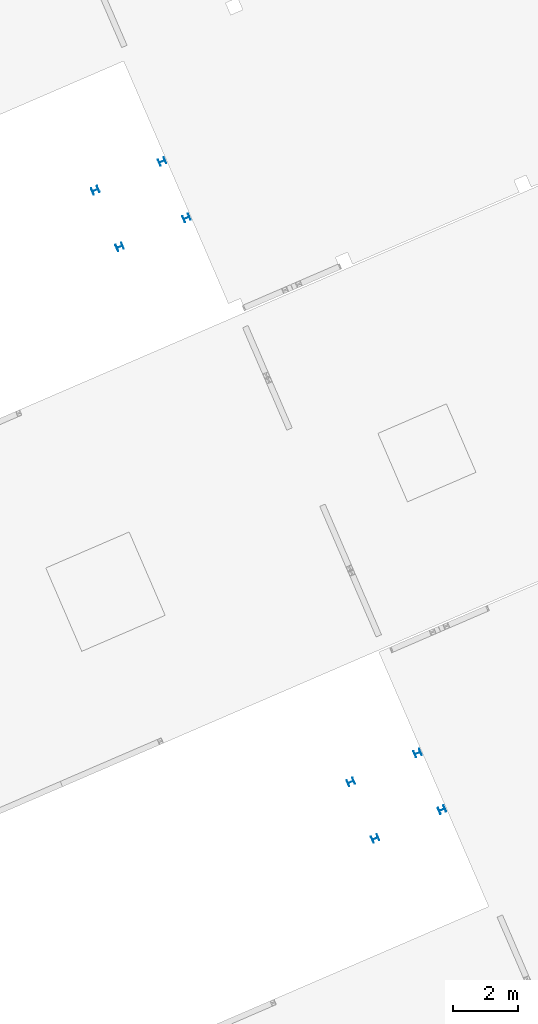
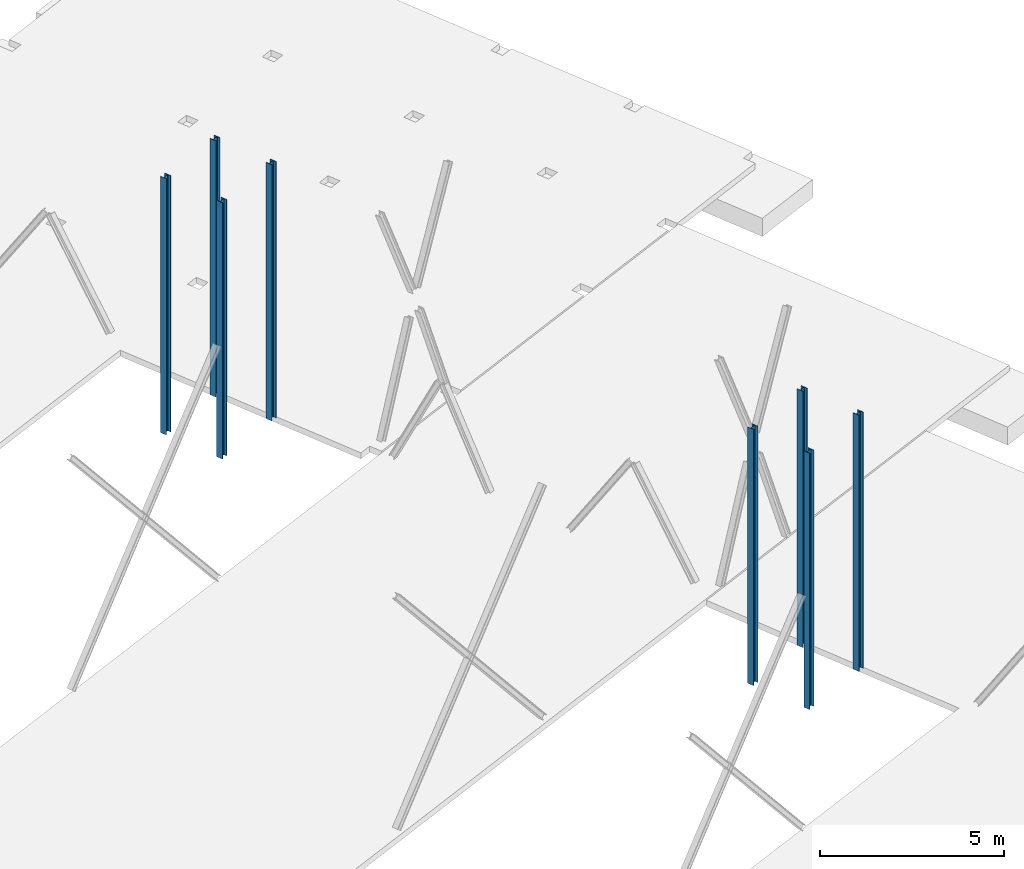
# One storey, part 1 of 6: 8 columns.
"""IFC4 building model written with IfcOpenShell, lengths in metres."""

import ifcopenshell
import ifcopenshell.guid

model = None  # the IFC model being written
_history = None  # IfcOwnerHistory: only IFC2X3 demands one
_inside = {}  # id of a spatial element -> (the spatial element, [elements in it])
_under = {}  # id of a project, library or spatial element -> (it, [spatial elements below it])
_declared = {}  # id of a project -> (the project, [libraries it declares])
_typed = {}  # id of a type object -> (the type object, [elements of that type])
_made_of = {}  # id of a material, layer set ... -> (it, [elements and type objects made of it])


def new_model(schema):
    """Start an empty IFC model of exactly this schema.

    Asked for "IFC4X3", IfcOpenShell would pick the latest addendum, in which some entities
    have other attributes; the version numbers below select the first issue.
    IFC2X3 requires an IfcOwnerHistory on every rooted entity: one is made here for all.
    """
    global model, _history
    if schema == "IFC4X3":
        model = ifcopenshell.file(schema_version=(4, 3, 0, 0))
    else:
        model = ifcopenshell.file(schema=schema)
    _inside.clear()
    _under.clear()
    _declared.clear()
    _typed.clear()
    _made_of.clear()
    _history = None
    if model.schema == "IFC2X3":
        org = make("IfcOrganization", Name="unknown")
        user = make(
            "IfcPersonAndOrganization",
            ThePerson=make("IfcPerson", FamilyName="unknown"),
            TheOrganization=org,
        )
        app = make(
            "IfcApplication",
            ApplicationDeveloper=org,
            Version="unknown",
            ApplicationFullName="unknown",
            ApplicationIdentifier="unknown",
        )
        _history = make(
            "IfcOwnerHistory",
            OwningUser=user,
            OwningApplication=app,
            ChangeAction="ADDED",
            CreationDate=0,
        )
    return model


def make(cls, **values):
    """One entity of the class cls with the attributes given. An attribute that is None is left unset."""
    return model.create_entity(
        cls, **{name: value for name, value in values.items() if value is not None}
    )


def entity(cls, *values):
    """Any entity or typed value of the class cls, its attributes in the order of the schema. None: left unset."""
    e = model.create_entity(cls)
    for i, value in enumerate(values):
        if value is not None:
            e[i] = value
    return e


def rooted(cls, **values):
    """An entity with a GlobalId (a new one), such as an element, a storey or a relation."""
    return make(cls, GlobalId=ifcopenshell.guid.new(), OwnerHistory=_history, **values)


def si_unit(unit_type, name, prefix=None):
    """IfcSIUnit, for example si_unit("LENGTHUNIT", "METRE", prefix="MILLI")."""
    return make("IfcSIUnit", UnitType=unit_type, Prefix=prefix, Name=name)


def converted_unit(unit_type, name, factor, base, dimensions=None, offset=None):
    """IfcConversionBasedUnit, such as the inch: factor (a typed value) times the base unit."""
    return make(
        "IfcConversionBasedUnit"
        if offset is None
        else "IfcConversionBasedUnitWithOffset",
        ConversionOffset=offset,
        Dimensions=None
        if dimensions is None
        else entity("IfcDimensionalExponents", *dimensions),
        UnitType=unit_type,
        Name=name,
        ConversionFactor=make(
            "IfcMeasureWithUnit", ValueComponent=factor, UnitComponent=base
        ),
    )


def derived_unit(unit_type, elements):
    """IfcDerivedUnit: a product of units, each with its exponent."""
    return make(
        "IfcDerivedUnit",
        Elements=[
            make("IfcDerivedUnitElement", Unit=unit, Exponent=power)
            for unit, power in elements
        ],
        UnitType=unit_type,
    )


def assignment(units):
    """IfcUnitAssignment: the units of a project."""
    return None if units is None else make("IfcUnitAssignment", Units=units)


def point(xyz):
    """IfcCartesianPoint."""
    return None if xyz is None else make("IfcCartesianPoint", Coordinates=xyz)


def direction(xyz):
    """IfcDirection."""
    return None if xyz is None else make("IfcDirection", DirectionRatios=xyz)


def frame(location, z_axis=None, x_axis=None):
    """IfcAxis2Placement3D, a coordinate frame: its origin and axes. An axis left out is left unset."""
    return make(
        "IfcAxis2Placement3D",
        Location=point(location),
        Axis=direction(z_axis),
        RefDirection=direction(x_axis),
    )


def origin():
    """The frame at (0, 0, 0) with its axes left unset."""
    return frame((0.0, 0.0, 0.0))


def place(relative_to, where):
    """IfcLocalPlacement: puts the frame where relative to a parent placement (None: the world)."""
    return make(
        "IfcLocalPlacement", PlacementRelTo=relative_to, RelativePlacement=where
    )


def context(
    kind, dimensions, precision=None, world=None, true_north=None, identifier=None
):
    """IfcGeometricRepresentationContext, for example the 3D "Model" context."""
    return make(
        "IfcGeometricRepresentationContext",
        ContextIdentifier=identifier,
        ContextType=kind,
        CoordinateSpaceDimension=dimensions,
        Precision=precision,
        WorldCoordinateSystem=world,
        TrueNorth=true_north,
    )


def subcontext(parent, identifier, kind, view, scale=None):
    """IfcGeometricRepresentationSubContext, for example "Body" below "Model"."""
    return make(
        "IfcGeometricRepresentationSubContext",
        ContextIdentifier=identifier,
        ContextType=kind,
        ParentContext=parent,
        TargetScale=scale,
        TargetView=view,
    )


def project(units=None, contexts=None):
    """IfcProject with its units and contexts."""
    return rooted(
        "IfcProject",
        Name="project",
        RepresentationContexts=contexts,
        UnitsInContext=assignment(units),
    )


def spatial(cls, under=None, at=None, **own):
    """A site, building, storey or space (cls), placed at a placement, below another one or the project."""
    s = rooted(cls, ObjectPlacement=at, **own)
    if under is not None:
        _under.setdefault(under.id(), (under, []))[1].append(s)
    return s


def point_list(points):
    """IfcCartesianPointList2D or 3D."""
    cls = (
        "IfcCartesianPointList2D" if len(points[0]) == 2 else "IfcCartesianPointList3D"
    )
    return make(cls, CoordList=points)


def line(*indices):
    """IfcLineIndex: a straight run through numbered points of an indexed curve."""
    return model.create_entity("IfcLineIndex", indices)


def arc(*indices):
    """IfcArcIndex: an arc through three numbered points of an indexed curve."""
    return model.create_entity("IfcArcIndex", indices)


def indexed_curve(points, segments=None, self_intersect=None):
    """IfcIndexedPolyCurve: lines and arcs through numbered points (the first is 1)."""
    return make(
        "IfcIndexedPolyCurve",
        Points=point_list(points),
        Segments=segments,
        SelfIntersect=self_intersect,
    )


def outline(outer, holes=None, kind="AREA"):
    """IfcArbitraryClosedProfileDef: a profile drawn as a closed curve; with holes, ...WithVoids."""
    if holes is None:
        return make("IfcArbitraryClosedProfileDef", ProfileType=kind, OuterCurve=outer)
    return make(
        "IfcArbitraryProfileDefWithVoids",
        ProfileType=kind,
        OuterCurve=outer,
        InnerCurves=holes,
    )


def extrude(swept, where, along, depth):
    """IfcExtrudedAreaSolid: the profile swept, set in the frame where, extruded along a direction by depth."""
    return make(
        "IfcExtrudedAreaSolid",
        SweptArea=swept,
        Position=where,
        ExtrudedDirection=direction(along),
        Depth=depth,
    )


def shape(context_of_items, identifier, shape_type, items):
    """IfcShapeRepresentation: the items that make up one representation, for example the "Body"."""
    return make(
        "IfcShapeRepresentation",
        ContextOfItems=context_of_items,
        RepresentationIdentifier=identifier,
        RepresentationType=shape_type,
        Items=items,
    )


def source(mapping_origin, context_of_items, identifier, shape_type, items):
    """IfcRepresentationMap: a shape defined once, which mapped items show again and again."""
    return make(
        "IfcRepresentationMap",
        MappingOrigin=mapping_origin,
        MappedRepresentation=shape(context_of_items, identifier, shape_type, items),
    )


def transform(
    local_origin,
    x_axis=None,
    y_axis=None,
    z_axis=None,
    scale=None,
    scale2=None,
    scale3=None,
    uniform=True,
):
    """IfcCartesianTransformationOperator3D, or its non-uniform kind. x_axis, y_axis, z_axis: its Axis1, 2, 3."""
    if uniform:
        return make(
            "IfcCartesianTransformationOperator3D",
            Axis1=direction(x_axis),
            Axis2=direction(y_axis),
            LocalOrigin=point(local_origin),
            Scale=scale,
            Axis3=direction(z_axis),
        )
    return make(
        "IfcCartesianTransformationOperator3DnonUniform",
        Axis1=direction(x_axis),
        Axis2=direction(y_axis),
        LocalOrigin=point(local_origin),
        Scale=scale,
        Axis3=direction(z_axis),
        Scale2=scale2,
        Scale3=scale3,
    )


def mapped(mapping_source, mapping_target):
    """IfcMappedItem: shows the shape of a source again, moved by a transform."""
    return make(
        "IfcMappedItem", MappingSource=mapping_source, MappingTarget=mapping_target
    )


def material(Name=None, Category=None):
    """IfcMaterial."""
    return make("IfcMaterial", Name=Name, Category=Category)


def made_of(thing, what):
    """Note that an element or type object is made of a material, layer set ...; save() writes the relation."""
    if what is not None:
        _made_of.setdefault(what.id(), (what, []))[1].append(thing)
    return thing


def type_object(cls, material=None, **own):
    """A type object (cls), such as IfcWallType, which elements share."""
    return made_of(rooted(cls, **own), material)


def type_shapes(of_type, sources):
    """Give a type object the sources (RepresentationMaps) that its elements show as mapped items."""
    of_type.RepresentationMaps = sources


def element(
    cls,
    number,
    at=None,
    inside=None,
    cuts=None,
    type_object=None,
    material=None,
    context=None,
    identifier="Body",
    shape_type=None,
    held_by="IfcProductDefinitionShape",
    body=None,
    shapes=None,
    **own,
):
    """One element of the class cls, such as IfcWall. Its Tag is "e" and its number.

    at: its placement. inside: the storey or other place that contains it. cuts: it is an
    opening in that element (IfcRelVoidsElement). A single representation is given by context,
    identifier, shape_type and body (its items); several are given by shapes. held_by: the class
    of the entity that holds the representations. save() writes the other relations.
    """
    e = rooted(cls, Tag="e%d" % number, ObjectPlacement=at, **own)
    if body is not None:
        shapes = [shape(context, identifier, shape_type, body)]
    if shapes is not None:
        e.Representation = make(held_by, Representations=shapes)
    if inside is not None:
        _inside.setdefault(inside.id(), (inside, []))[1].append(e)
    if cuts is not None:
        rooted(
            "IfcRelVoidsElement", RelatingBuildingElement=cuts, RelatedOpeningElement=e
        )
    if type_object is not None:
        _typed.setdefault(type_object.id(), (type_object, []))[1].append(e)
    return made_of(e, material)


def aggregate(whole, parts):
    """IfcRelAggregates: a whole, such as a stair, and the parts it consists of."""
    return rooted("IfcRelAggregates", RelatingObject=whole, RelatedObjects=parts)


def save(model, path):
    """Write the relations noted so far, then the file.

    IfcRelAggregates (storeys below a building ...), IfcRelContainedInSpatialStructure (elements
    in a storey), IfcRelDefinesByType, IfcRelAssociatesMaterial and IfcRelDeclares: one each for
    every whole, place, type object, material and project.
    """
    for whole, parts in _under.values():
        aggregate(whole, parts)
    for where, things in _inside.values():
        rooted(
            "IfcRelContainedInSpatialStructure",
            RelatedElements=things,
            RelatingStructure=where,
        )
    for kind, things in _typed.values():
        rooted("IfcRelDefinesByType", RelatedObjects=things, RelatingType=kind)
    for what, things in _made_of.values():
        rooted("IfcRelAssociatesMaterial", RelatedObjects=things, RelatingMaterial=what)
    for by, libraries in _declared.values():
        rooted("IfcRelDeclares", RelatingContext=by, RelatedDefinitions=libraries)
    model.write(path)


model = new_model("IFC4")

# Units and contexts
model_context = context("Model", 3, precision=1e-05, world=origin(), true_north=direction((6.12323399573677e-17, 1.0)))
body_context = subcontext(model_context, "Body", "Model", "MODEL_VIEW")
ifc_project = project(units=[si_unit("LENGTHUNIT", "METRE"), si_unit("AREAUNIT", "SQUARE_METRE"), si_unit("VOLUMEUNIT", "CUBIC_METRE"), converted_unit("PLANEANGLEUNIT", "DEGREE", entity("IfcPlaneAngleMeasure", 0.0174532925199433), si_unit("PLANEANGLEUNIT", "RADIAN"), dimensions=[0, 0, 0, 0, 0, 0, 0]), si_unit("MASSUNIT", "GRAM", prefix="KILO"), derived_unit("MOMENTOFINERTIAUNIT", [(si_unit("LENGTHUNIT", "METRE"), 4)]), derived_unit("LINEARFORCEUNIT", [(si_unit("MASSUNIT", "GRAM", prefix="KILO"), 1), (si_unit("TIMEUNIT", "SECOND"), -2)]), derived_unit("WARPINGCONSTANTUNIT", [(si_unit("LENGTHUNIT", "METRE"), 6)]), derived_unit("THERMALTRANSMITTANCEUNIT", [(si_unit("MASSUNIT", "GRAM", prefix="KILO"), 1), (si_unit("THERMODYNAMICTEMPERATUREUNIT", "KELVIN"), -1), (si_unit("TIMEUNIT", "SECOND"), -3)]), derived_unit("USERDEFINED", [(si_unit("MASSUNIT", "GRAM", prefix="KILO"), 1), (si_unit("TIMEUNIT", "SECOND"), -2), (si_unit("THERMODYNAMICTEMPERATUREUNIT", "KELVIN"), -1)]), derived_unit("THERMALRESISTANCEUNIT", [(si_unit("MASSUNIT", "GRAM", prefix="KILO"), -1), (si_unit("TIMEUNIT", "SECOND"), 3), (si_unit("THERMODYNAMICTEMPERATUREUNIT", "KELVIN"), 1)])], contexts=[model_context])

# Site, building, storey
site_placement = place(None, origin())
site = spatial("IfcSite", under=ifc_project, at=site_placement, Name="Default", CompositionType="ELEMENT")
building_placement = place(site_placement, frame((12.6613425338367, -82.5732315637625, 317.15), z_axis=(0.0, 0.0, 1.0), x_axis=(-0.396377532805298, 0.918087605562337, 0.0)))
building = spatial("IfcBuilding", under=site, at=building_placement, Name="CESFAM Coyhaique", CompositionType="ELEMENT")
storey_placement = place(building_placement, frame((0.0, 0.0, -0.0500000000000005)))
storey = spatial("IfcBuildingStorey", under=building, at=storey_placement, Name="Nivel 1", CompositionType="ELEMENT", Elevation=-0.0500000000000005)

# Columns
ifc_material = material(Name="Steel, 45-345", Category="Metal")
column_type_1 = type_object("IfcColumnType", Name="M_W Shapes-Column:HEA 200", PredefinedType="COLUMN", material=ifc_material)
shared_shape_1 = source(origin(), body_context, "Body", "SweptSolid", [
    extrude(outline(indexed_curve([(-0.100000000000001, -0.100000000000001), (0.0999999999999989, -0.100000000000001), (0.0999999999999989, -0.0890000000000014), (0.016384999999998, -0.0890000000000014), (0.0074047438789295, -0.0852802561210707), (0.00368499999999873, -0.0763000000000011), (0.00368499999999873, 0.0762999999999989), (0.0074047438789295, 0.0852802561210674), (0.016384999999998, 0.0889999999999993), (0.0999999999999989, 0.0889999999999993), (0.0999999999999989, 0.0999999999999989), (-0.100000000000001, 0.0999999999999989), (-0.100000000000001, 0.0889999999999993), (-0.0163850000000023, 0.0889999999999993), (-0.00740474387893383, 0.0852802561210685), (-0.0036850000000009, 0.0762999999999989), (-0.00368500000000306, -0.0763000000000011), (-0.00740474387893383, -0.0852802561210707), (-0.0163850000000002, -0.0890000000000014), (-0.100000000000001, -0.0890000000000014)], segments=[line(1, 2, 3, 4), arc(4, 5, 6), line(6, 7), arc(7, 8, 9), line(9, 10, 11, 12, 13, 14), arc(14, 15, 16), line(16, 17), arc(17, 18, 19), line(19, 20, 1)], self_intersect=False)), frame((18.4790184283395, -9.01714975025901, -0.0500000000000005), z_axis=(0.0, 0.0, 1.0), x_axis=(-1.0, 0.0, 0.0)), (0.0, 0.0, 1.0), 8.50000000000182),
])
type_shapes(column_type_1, [shared_shape_1])
column_1_placement = place(storey_placement, frame((0.0, 0.0, 0.0500000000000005)))
element("IfcColumn", 1, at=column_1_placement, inside=storey, type_object=column_type_1, Name="M_W Shapes-Column:HEA 200", ObjectType="M_W Shapes-Column:HEA 200", PredefinedType="COLUMN", context=body_context, shape_type="MappedRepresentation", body=[
    mapped(shared_shape_1, transform((0.0, 0.0, 0.0), scale=1.0)),
])
column_type_2 = type_object("IfcColumnType", Name="M_W Shapes-Column:HEA 200", PredefinedType="COLUMN", material=ifc_material)
shared_shape_2 = source(origin(), body_context, "Body", "SweptSolid", [
    extrude(outline(indexed_curve([(-0.0999999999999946, -0.100000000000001), (0.100000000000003, -0.100000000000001), (0.100000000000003, -0.0890000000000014), (0.0163850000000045, -0.0890000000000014), (0.00740474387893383, -0.0852802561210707), (0.00368500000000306, -0.0763000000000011), (0.00368500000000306, 0.0762999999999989), (0.00740474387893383, 0.0852802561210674), (0.0163850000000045, 0.0889999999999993), (0.100000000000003, 0.0889999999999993), (0.100000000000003, 0.0999999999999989), (-0.0999999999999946, 0.0999999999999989), (-0.0999999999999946, 0.0889999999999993), (-0.0163849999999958, 0.0889999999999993), (-0.00740474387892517, 0.0852802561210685), (-0.00368499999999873, 0.0762999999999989), (-0.0036849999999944, -0.0763000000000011), (-0.00740474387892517, -0.0852802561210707), (-0.0163849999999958, -0.0890000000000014), (-0.0999999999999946, -0.0890000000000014)], segments=[line(1, 2, 3, 4), arc(4, 5, 6), line(6, 7), arc(7, 8, 9), line(9, 10, 11, 12, 13, 14), arc(14, 15, 16), line(16, 17), arc(17, 18, 19), line(19, 20, 1)], self_intersect=False)), frame((20.3789296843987, -9.01714975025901, -0.0500000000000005), z_axis=(0.0, 0.0, 1.0), x_axis=(-1.0, 0.0, 0.0)), (0.0, 0.0, 1.0), 8.50000000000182),
])
type_shapes(column_type_2, [shared_shape_2])
column_2_placement = place(storey_placement, frame((0.0, 0.0, 0.0500000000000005)))
element("IfcColumn", 2, at=column_2_placement, inside=storey, type_object=column_type_2, Name="M_W Shapes-Column:HEA 200", ObjectType="M_W Shapes-Column:HEA 200", PredefinedType="COLUMN", context=body_context, shape_type="MappedRepresentation", body=[
    mapped(shared_shape_2, transform((0.0, 0.0, 0.0), scale=1.0)),
])
column_type_3 = type_object("IfcColumnType", Name="M_W Shapes-Column:HEA 200", PredefinedType="COLUMN", material=ifc_material)
shared_shape_3 = source(origin(), body_context, "Body", "SweptSolid", [
    extrude(outline(indexed_curve([(-0.0999999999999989, -0.100000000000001), (0.100000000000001, -0.100000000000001), (0.100000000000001, -0.0890000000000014), (0.0163850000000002, -0.0889999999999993), (0.00740474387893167, -0.0852802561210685), (0.0036850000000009, -0.0763), (0.0036850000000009, 0.0763), (0.00740474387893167, 0.0852802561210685), (0.0163850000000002, 0.0889999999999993), (0.100000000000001, 0.0889999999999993), (0.100000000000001, 0.0999999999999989), (-0.0999999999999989, 0.0999999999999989), (-0.0999999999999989, 0.0889999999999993), (-0.0163850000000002, 0.0889999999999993), (-0.00740474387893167, 0.0852802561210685), (-0.00368499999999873, 0.0763), (-0.0036850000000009, -0.0763), (-0.00740474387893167, -0.0852802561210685), (-0.016384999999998, -0.0890000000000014), (-0.0999999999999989, -0.0890000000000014)], segments=[line(1, 2, 3, 4), arc(4, 5, 6), line(6, 7), arc(7, 8, 9), line(9, 10, 11, 12, 13, 14), arc(14, 15, 16), line(16, 17), arc(17, 18, 19), line(19, 20, 1)], self_intersect=False)), frame((18.4790184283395, -11.2621497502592, -0.0500000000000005), z_axis=(0.0, 0.0, 1.0), x_axis=(-1.0, 0.0, 0.0)), (0.0, 0.0, 1.0), 8.50000000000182),
])
type_shapes(column_type_3, [shared_shape_3])
column_3_placement = place(storey_placement, frame((0.0, 0.0, 0.0500000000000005)))
element("IfcColumn", 3, at=column_3_placement, inside=storey, type_object=column_type_3, Name="M_W Shapes-Column:HEA 200", ObjectType="M_W Shapes-Column:HEA 200", PredefinedType="COLUMN", context=body_context, shape_type="MappedRepresentation", body=[
    mapped(shared_shape_3, transform((0.0, 0.0, 0.0), scale=1.0)),
])
column_type_4 = type_object("IfcColumnType", Name="M_W Shapes-Column:HEA 200", PredefinedType="COLUMN", material=ifc_material)
shared_shape_4 = source(origin(), body_context, "Body", "SweptSolid", [
    extrude(outline(indexed_curve([(-0.0999999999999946, -0.100000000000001), (0.100000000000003, -0.100000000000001), (0.100000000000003, -0.0890000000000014), (0.0163850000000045, -0.0889999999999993), (0.00740474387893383, -0.0852802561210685), (0.00368500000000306, -0.0763), (0.00368500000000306, 0.0763), (0.00740474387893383, 0.0852802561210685), (0.0163850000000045, 0.0889999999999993), (0.100000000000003, 0.0889999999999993), (0.100000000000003, 0.0999999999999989), (-0.0999999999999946, 0.0999999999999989), (-0.0999999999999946, 0.0889999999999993), (-0.0163849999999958, 0.0889999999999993), (-0.00740474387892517, 0.0852802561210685), (-0.00368499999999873, 0.0763), (-0.0036849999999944, -0.0763), (-0.00740474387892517, -0.0852802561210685), (-0.0163849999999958, -0.0890000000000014), (-0.0999999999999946, -0.0890000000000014)], segments=[line(1, 2, 3, 4), arc(4, 5, 6), line(6, 7), arc(7, 8, 9), line(9, 10, 11, 12, 13, 14), arc(14, 15, 16), line(16, 17), arc(17, 18, 19), line(19, 20, 1)], self_intersect=False)), frame((20.3789296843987, -11.2621497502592, -0.0500000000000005), z_axis=(0.0, 0.0, 1.0), x_axis=(-1.0, 0.0, 0.0)), (0.0, 0.0, 1.0), 8.50000000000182),
])
type_shapes(column_type_4, [shared_shape_4])
column_4_placement = place(storey_placement, frame((0.0, 0.0, 0.0500000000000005)))
element("IfcColumn", 4, at=column_4_placement, inside=storey, type_object=column_type_4, Name="M_W Shapes-Column:HEA 200", ObjectType="M_W Shapes-Column:HEA 200", PredefinedType="COLUMN", context=body_context, shape_type="MappedRepresentation", body=[
    mapped(shared_shape_4, transform((0.0, 0.0, 0.0), scale=1.0)),
])
column_type_5 = type_object("IfcColumnType", Name="M_W Shapes-Column:HEA 200", PredefinedType="COLUMN", material=ifc_material)
shared_shape_5 = source(origin(), body_context, "Body", "SweptSolid", [
    extrude(outline(indexed_curve([(-0.100000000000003, -0.0999999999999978), (0.0999999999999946, -0.0999999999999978), (0.0999999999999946, -0.0889999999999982), (0.0163849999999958, -0.0889999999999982), (0.00740474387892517, -0.0852802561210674), (0.0036849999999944, -0.0762999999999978), (0.0036849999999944, 0.0763000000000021), (0.00740474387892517, 0.0852802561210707), (0.0163849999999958, 0.0890000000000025), (0.0999999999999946, 0.0890000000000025), (0.0999999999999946, 0.100000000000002), (-0.100000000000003, 0.100000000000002), (-0.100000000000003, 0.0890000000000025), (-0.0163850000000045, 0.0890000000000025), (-0.00740474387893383, 0.0852802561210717), (-0.00368500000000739, 0.0763000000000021), (-0.00368500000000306, -0.0762999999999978), (-0.00740474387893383, -0.0852802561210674), (-0.0163850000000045, -0.0889999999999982), (-0.100000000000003, -0.0889999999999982)], segments=[line(1, 2, 3, 4), arc(4, 5, 6), line(6, 7), arc(7, 8, 9), line(9, 10, 11, 12, 13, 14), arc(14, 15, 16), line(16, 17), arc(17, 18, 19), line(19, 20, 1)], self_intersect=False)), frame((38.3590943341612, -9.01714975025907, -0.0500000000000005), z_axis=(0.0, 0.0, 1.0), x_axis=(-1.0, 0.0, 0.0)), (0.0, 0.0, 1.0), 8.50000000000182),
])
type_shapes(column_type_5, [shared_shape_5])
column_5_placement = place(storey_placement, frame((0.0, 0.0, 0.0500000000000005)))
element("IfcColumn", 5, at=column_5_placement, inside=storey, type_object=column_type_5, Name="M_W Shapes-Column:HEA 200", ObjectType="M_W Shapes-Column:HEA 200", PredefinedType="COLUMN", context=body_context, shape_type="MappedRepresentation", body=[
    mapped(shared_shape_5, transform((0.0, 0.0, 0.0), scale=1.0)),
])
column_type_6 = type_object("IfcColumnType", Name="M_W Shapes-Column:HEA 200", PredefinedType="COLUMN", material=ifc_material)
shared_shape_6 = source(origin(), body_context, "Body", "SweptSolid", [
    extrude(outline(indexed_curve([(-0.0999999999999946, -0.0999999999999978), (0.100000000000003, -0.0999999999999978), (0.100000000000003, -0.0889999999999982), (0.0163850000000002, -0.0889999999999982), (0.0074047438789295, -0.0852802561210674), (0.00368500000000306, -0.0762999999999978), (0.00368500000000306, 0.0763000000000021), (0.0074047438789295, 0.0852802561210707), (0.0163850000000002, 0.0890000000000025), (0.100000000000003, 0.0890000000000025), (0.100000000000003, 0.100000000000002), (-0.0999999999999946, 0.100000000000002), (-0.0999999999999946, 0.0890000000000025), (-0.0163850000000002, 0.0890000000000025), (-0.0074047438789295, 0.0852802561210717), (-0.0036849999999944, 0.0763000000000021), (-0.00368500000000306, -0.0762999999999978), (-0.0074047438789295, -0.0852802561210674), (-0.0163850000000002, -0.0889999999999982), (-0.0999999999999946, -0.0889999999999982)], segments=[line(1, 2, 3, 4), arc(4, 5, 6), line(6, 7), arc(7, 8, 9), line(9, 10, 11, 12, 13, 14), arc(14, 15, 16), line(16, 17), arc(17, 18, 19), line(19, 20, 1)], self_intersect=False)), frame((40.2590055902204, -9.01714975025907, -0.0500000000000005), z_axis=(0.0, 0.0, 1.0), x_axis=(-1.0, 0.0, 0.0)), (0.0, 0.0, 1.0), 8.50000000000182),
])
type_shapes(column_type_6, [shared_shape_6])
column_6_placement = place(storey_placement, frame((0.0, 0.0, 0.0500000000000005)))
element("IfcColumn", 6, at=column_6_placement, inside=storey, type_object=column_type_6, Name="M_W Shapes-Column:HEA 200", ObjectType="M_W Shapes-Column:HEA 200", PredefinedType="COLUMN", context=body_context, shape_type="MappedRepresentation", body=[
    mapped(shared_shape_6, transform((0.0, 0.0, 0.0), scale=1.0)),
])
column_type_7 = type_object("IfcColumnType", Name="M_W Shapes-Column:HEA 200", PredefinedType="COLUMN", material=ifc_material)
shared_shape_7 = source(origin(), body_context, "Body", "SweptSolid", [
    extrude(outline(indexed_curve([(-0.100000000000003, -0.0999999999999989), (0.0999999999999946, -0.0999999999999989), (0.0999999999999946, -0.0889999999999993), (0.0163849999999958, -0.0889999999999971), (0.00740474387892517, -0.0852802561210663), (0.0036849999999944, -0.0762999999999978), (0.0036849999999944, 0.0763000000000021), (0.00740474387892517, 0.0852802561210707), (0.0163849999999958, 0.0890000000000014), (0.0999999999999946, 0.0890000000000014), (0.0999999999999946, 0.100000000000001), (-0.100000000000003, 0.100000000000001), (-0.100000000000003, 0.0890000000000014), (-0.0163850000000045, 0.0890000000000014), (-0.00740474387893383, 0.0852802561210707), (-0.00368500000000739, 0.0763000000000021), (-0.00368500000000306, -0.0762999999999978), (-0.00740474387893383, -0.0852802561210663), (-0.0163850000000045, -0.0889999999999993), (-0.100000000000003, -0.0889999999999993)], segments=[line(1, 2, 3, 4), arc(4, 5, 6), line(6, 7), arc(7, 8, 9), line(9, 10, 11, 12, 13, 14), arc(14, 15, 16), line(16, 17), arc(17, 18, 19), line(19, 20, 1)], self_intersect=False)), frame((38.3590943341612, -11.2621497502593, -0.0500000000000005), z_axis=(0.0, 0.0, 1.0), x_axis=(-1.0, 0.0, 0.0)), (0.0, 0.0, 1.0), 8.50000000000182),
])
type_shapes(column_type_7, [shared_shape_7])
column_7_placement = place(storey_placement, frame((0.0, 0.0, 0.0500000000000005)))
element("IfcColumn", 7, at=column_7_placement, inside=storey, type_object=column_type_7, Name="M_W Shapes-Column:HEA 200", ObjectType="M_W Shapes-Column:HEA 200", PredefinedType="COLUMN", context=body_context, shape_type="MappedRepresentation", body=[
    mapped(shared_shape_7, transform((0.0, 0.0, 0.0), scale=1.0)),
])
column_type_8 = type_object("IfcColumnType", Name="M_W Shapes-Column:HEA 200", PredefinedType="COLUMN", material=ifc_material)
shared_shape_8 = source(origin(), body_context, "Body", "SweptSolid", [
    extrude(outline(indexed_curve([(-0.0999999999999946, -0.0999999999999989), (0.100000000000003, -0.0999999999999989), (0.100000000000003, -0.0889999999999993), (0.0163850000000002, -0.0889999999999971), (0.0074047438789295, -0.0852802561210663), (0.00368500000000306, -0.0762999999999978), (0.00368500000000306, 0.0763000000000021), (0.0074047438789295, 0.0852802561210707), (0.0163850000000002, 0.0890000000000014), (0.100000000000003, 0.0890000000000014), (0.100000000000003, 0.100000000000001), (-0.0999999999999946, 0.100000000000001), (-0.0999999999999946, 0.0890000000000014), (-0.0163850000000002, 0.0890000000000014), (-0.0074047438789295, 0.0852802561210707), (-0.0036849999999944, 0.0763000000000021), (-0.00368500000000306, -0.0762999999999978), (-0.0074047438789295, -0.0852802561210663), (-0.0163850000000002, -0.0889999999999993), (-0.0999999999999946, -0.0889999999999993)], segments=[line(1, 2, 3, 4), arc(4, 5, 6), line(6, 7), arc(7, 8, 9), line(9, 10, 11, 12, 13, 14), arc(14, 15, 16), line(16, 17), arc(17, 18, 19), line(19, 20, 1)], self_intersect=False)), frame((40.2590055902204, -11.2621497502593, -0.0500000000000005), z_axis=(0.0, 0.0, 1.0), x_axis=(-1.0, 0.0, 0.0)), (0.0, 0.0, 1.0), 8.50000000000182),
])
type_shapes(column_type_8, [shared_shape_8])
column_8_placement = place(storey_placement, frame((0.0, 0.0, 0.0500000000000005)))
element("IfcColumn", 8, at=column_8_placement, inside=storey, type_object=column_type_8, Name="M_W Shapes-Column:HEA 200", ObjectType="M_W Shapes-Column:HEA 200", PredefinedType="COLUMN", context=body_context, shape_type="MappedRepresentation", body=[
    mapped(shared_shape_8, transform((0.0, 0.0, 0.0), scale=1.0)),
])

save(model, "model.ifc")
